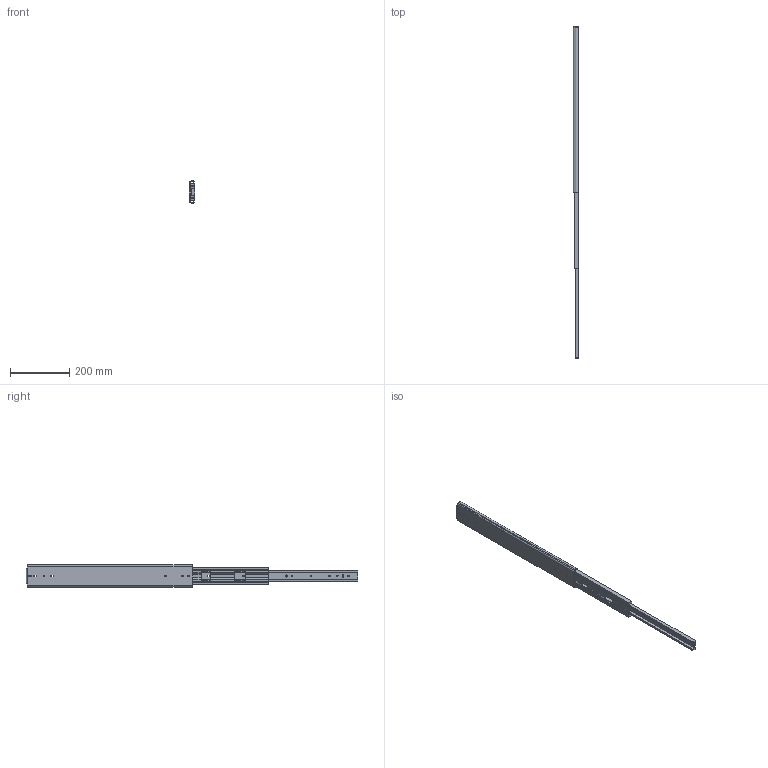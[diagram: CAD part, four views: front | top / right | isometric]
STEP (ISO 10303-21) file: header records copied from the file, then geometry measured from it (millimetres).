
FILE_DESCRIPTION(/* description */ ('Unknown'),/* implementation_level */ '2;1');
FILE_NAME(/* name */ '76J01-22 open',/* time_stamp */ '2024-07-26T15:40:56+08:00',/* author */ ('Unknown'),/* organization */ ('Unknown'),/* preprocessor_version */ 'ST-DEVELOPER v18.104',/* originating_system */ 'Solid Edge',/* authorisation */ 'Unknown');
FILE_SCHEMA (('AUTOMOTIVE_DESIGN {1 0 10303 214 3 1 1}'));
Length unit declared in the file: millimetre
Products named in the file (4): 76J01-22 open; 76J01 22 inch 內_0i; 76J01 22 吋中_; 76J01 22 吋
Assembly tree (3 placements, depth 2):
  76J01-22 open
    76J01 22 inch 內_0i
    76J01 22 吋中_
    76J01 22 吋
Bounding box: 19.3 x 1116.9 x 76.76 mm (x, y, z)
Volume: 435084.8 mm3; surface area: 271672.1 mm2
Topology: 3 solids, 3 shells, 188 faces, 575 edges, 387 vertices
Faces by surface type: plane 104, cylinder 84
Full cylindrical faces by diameter (mm): 5.2 x9, 7.1 x2
Entity records: 6871 total; most frequent: CARTESIAN_POINT 1124, ORIENTED_EDGE 1106, DIRECTION 1105, EDGE_CURVE 553, LINE 383, VECTOR 383, VERTEX_POINT 376, AXIS2_PLACEMENT_3D 361
